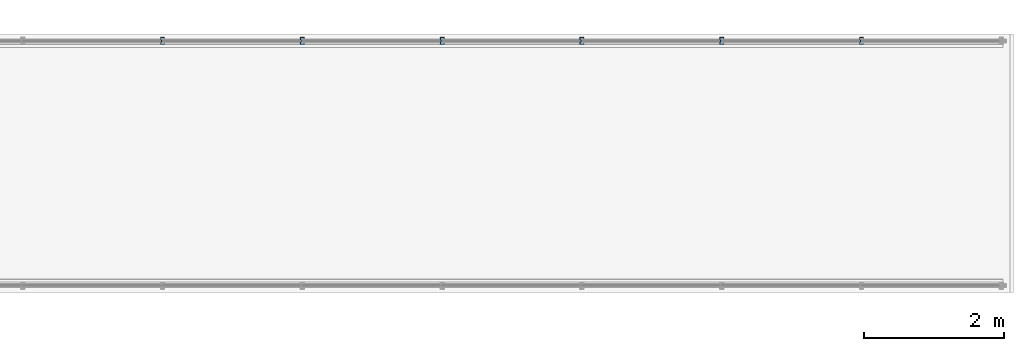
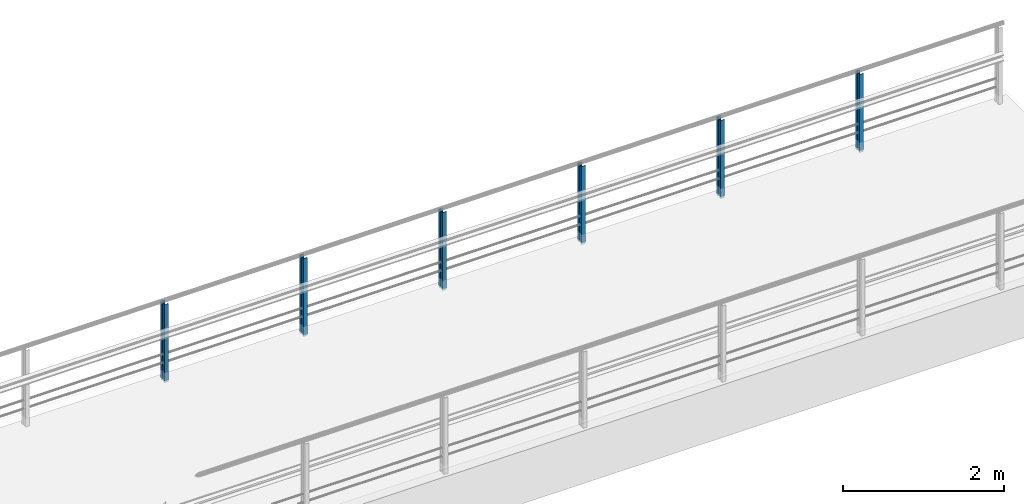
# One storey, part 3 of 31: 6 columns.
"""IFC2X3 building model written with IfcOpenShell, lengths in millimetres."""

from ifc_helpers import new_model, si_unit, frame, origin_with_axes, place, context, subcontext, project, spatial, faceted_brep, material, type_object, element, save


model = new_model("IFC2X3")

# Units and contexts
model_context = context("Model", 3, precision=1e-05, world=origin_with_axes())
body_context = subcontext(model_context, "Body", "Model", "MODEL_VIEW")
ifc_project = project(units=[si_unit("LENGTHUNIT", "METRE", prefix="MILLI"), si_unit("AREAUNIT", "SQUARE_METRE"), si_unit("VOLUMEUNIT", "CUBIC_METRE"), si_unit("MASSUNIT", "GRAM", prefix="KILO"), si_unit("TIMEUNIT", "SECOND"), si_unit("PLANEANGLEUNIT", "RADIAN"), si_unit("SOLIDANGLEUNIT", "STERADIAN"), si_unit("THERMODYNAMICTEMPERATUREUNIT", "DEGREE_CELSIUS"), si_unit("LUMINOUSINTENSITYUNIT", "LUMEN")], contexts=[model_context])

# Site, building, storey
site_placement = place(None, origin_with_axes())
site = spatial("IfcSite", under=ifc_project, at=site_placement, Name="Undefined", CompositionType="ELEMENT")
building_placement = place(site_placement, origin_with_axes())
building = spatial("IfcBuilding", under=site, at=building_placement, Name="Undefined", CompositionType="ELEMENT")
storey_placement = place(building_placement, origin_with_axes())
storey = spatial("IfcBuildingStorey", under=building, at=storey_placement, Name="Undefined", CompositionType="ELEMENT", Elevation=0.0)

# Columns
ifc_material = material(Name="STEEL/S355J2+N")
column_type = type_object("IfcColumnType", Name="CW100-5-10*55-10-30", PredefinedType="NOTDEFINED")
for number, where, z_axis, x_axis, name in (
    (1, (27577.5, 2900.0, -150.0), (0.0, -1.0, 0.0), (0.0, 0.0, 1.0), "BB-STOLPE"),
    (2, (29577.5, 2900.0, -150.0), (0.0, -1.0, 0.0), (0.0, 0.0, 1.0), "BB-STOLPE"),
    (3, (31577.5, 2900.0, -150.0), (0.0, -1.0, 0.0), (0.0, 0.0, 1.0), "BB-STOLPE"),
    (4, (33577.5, 2900.0, -150.0), (0.0, -1.0, 0.0), (0.0, 0.0, 1.0), "BB-STOLPE"),
    (5, (35577.5, 2900.0, -150.0), (0.0, -1.0, 0.0), (0.0, 0.0, 1.0), "BB-STOLPE"),
    (6, (37577.5, 2900.0, -150.0), (0.0, -1.0, 0.0), (0.0, 0.0, 1.0), "BB-STOLPE"),
):
    element("IfcColumn", number, at=place(storey_placement, frame(where, z_axis=z_axis, x_axis=x_axis)), inside=storey, type_object=column_type, material=ifc_material, Name=name, context=body_context, shape_type="Brep", body=[
        faceted_brep([(0.0, -27.5, -50.0), (0.0, 27.5, -50.0), (1190.0, 27.5, -50.0), (1190.0, -27.5, -50.0), (0.0, 27.5, -20.0), (1190.0, 27.5, -20.0), (0.0, 17.5, -10.0), (1190.0, 17.5, -10.0), (0.0, 17.5, 10.0), (1190.0, 17.5, 10.0), (0.0, 27.5, 20.0), (1190.0, 27.5, 20.0), (0.0, 27.5, 50.0), (1190.0, 27.5, 50.0), (0.0, -27.5, 50.0), (1190.0, -27.5, 50.0), (0.0, -27.5, 40.0), (1190.0, -27.5, 40.0), (0.0, -22.5, 40.0), (1190.0, -22.5, 40.0), (0.0, -22.5, 45.0), (1190.0, -22.5, 45.0), (0.0, 22.5, 45.0), (1190.0, 22.5, 45.0), (0.0, 22.5, 21.9149999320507), (1190.0, 22.5, 21.9149999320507), (0.0, 12.5, 11.9149999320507), (1190.0, 12.5, 11.9149999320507), (0.0, 12.5, -11.9149999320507), (1190.0, 12.5, -11.9149999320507), (0.0, 22.5, -21.9149999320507), (1190.0, 22.5, -21.9149999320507), (0.0, 22.5, -45.0), (1190.0, 22.5, -45.0), (0.0, -22.5, -45.0), (1190.0, -22.5, -45.0), (0.0, -22.5, -40.0), (1190.0, -22.5, -40.0), (0.0, -27.5, -40.0), (1190.0, -27.5, -40.0)], [[[0, 1, 2, 3]], [[1, 4, 5, 2]], [[4, 6, 7, 5]], [[6, 8, 9, 7]], [[8, 10, 11, 9]], [[10, 12, 13, 11]], [[12, 14, 15, 13]], [[14, 16, 17, 15]], [[16, 18, 19, 17]], [[18, 20, 21, 19]], [[20, 22, 23, 21]], [[22, 24, 25, 23]], [[24, 26, 27, 25]], [[26, 28, 29, 27]], [[28, 30, 31, 29]], [[30, 32, 33, 31]], [[32, 34, 35, 33]], [[34, 36, 37, 35]], [[36, 38, 39, 37]], [[38, 0, 3, 39]], [[5, 7, 9, 11, 13, 15, 17, 19, 21, 23, 25, 27, 29, 31, 33, 35, 37, 39, 3, 2]], [[38, 36, 34, 32, 30, 28, 26, 24, 22, 20, 18, 16, 14, 12, 10, 8, 6, 4, 1, 0]]]),
    ])

save(model, "model.ifc")
